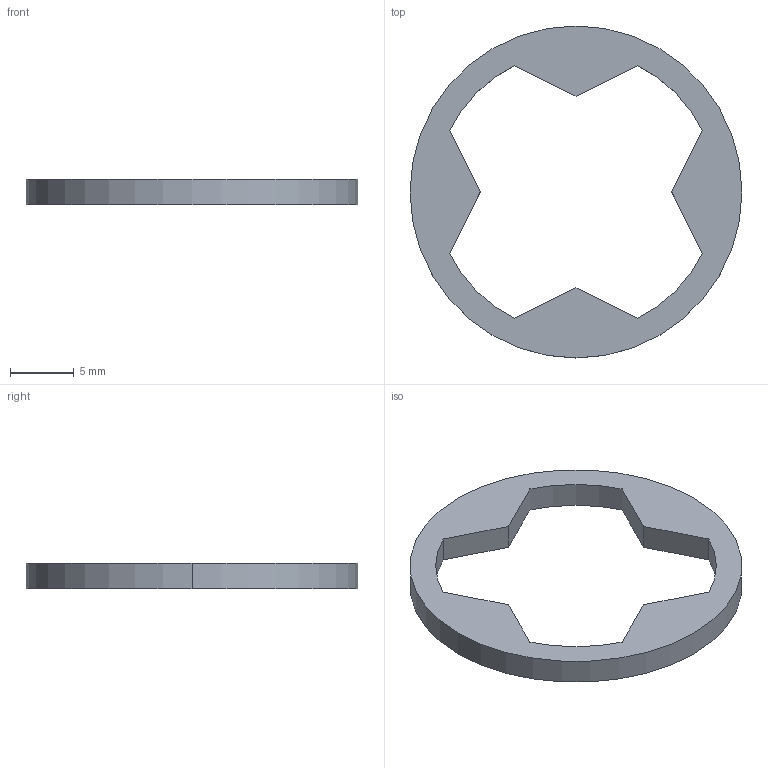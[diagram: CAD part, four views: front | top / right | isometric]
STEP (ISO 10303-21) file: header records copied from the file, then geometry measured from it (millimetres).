
FILE_DESCRIPTION (( 'STEP AP214' ), '1' );
FILE_NAME ('G_5.STEP', '2016-02-27T15:48:53', ( '' ), ( '' ), 'SwSTEP 2.0', 'SolidWorks 2012', '' );
FILE_SCHEMA (( 'AUTOMOTIVE_DESIGN' ));
Length unit declared in the file: millimetre
Products named in the file (1): G_5
Bounding box: 26 x 26 x 2 mm (x, y, z)
Volume: 450.6 mm3; surface area: 758.6 mm2
Topology: 1 solids, 1 shells, 16 faces, 42 edges, 28 vertices
Faces by surface type: plane 10, cylinder 6
Entity records: 536 total; most frequent: DIRECTION 88, CARTESIAN_POINT 87, ORIENTED_EDGE 84, EDGE_CURVE 42, LINE 30, VECTOR 30, AXIS2_PLACEMENT_3D 29, VERTEX_POINT 28
